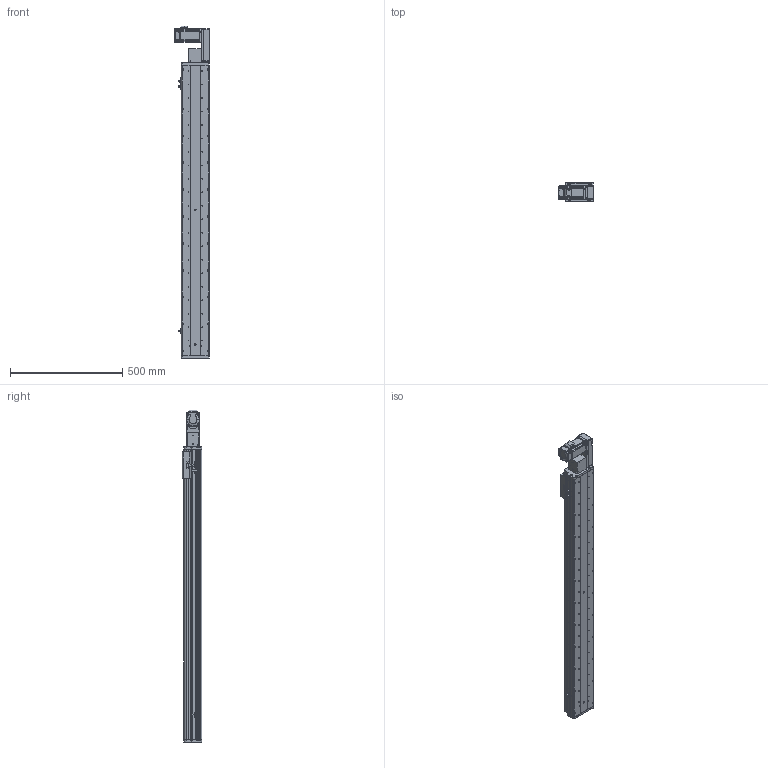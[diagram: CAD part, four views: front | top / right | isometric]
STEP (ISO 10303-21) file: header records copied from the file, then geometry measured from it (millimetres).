
FILE_DESCRIPTION (( 'STEP AP214' ), '1' );
FILE_NAME ('KSD125B-S1100-MLB-CM.STEP', '2017-10-21T01:56:07', ( '微软用户' ), ( '微软中国' ), 'SwSTEP 2.0', 'SolidWorks 2014', '' );
FILE_SCHEMA (( 'AUTOMOTIVE_DESIGN' ));
Length unit declared in the file: millimetre
Products named in the file (17): MHMD042G1CA_2_03; KSD125模组同步带-防撞垫2; 覜茼え68遵圉猾敕; U倰嫖萇假蚾璃; U倰嫖萇EEㄜSX672; KSD125模组同步带-防撞垫1; 前端板-125宽模组同步带; 125模组同步带-尾端板1; KSD125模组同步带-滑动座1; KSD125B-S1100-MLB-CM; 悵誘欶奻狟殏; HTPA30S3M150_A_H6_a佪裝蚚; HTPA30S3M150_A_H6_a萇儂蚚; 100宽马达安装板连板上下折丝杆同步带; 100宽马达安装板同步带左; KSD125模组1100行程同步带-防尘盖; 125模组1100行程同步带-底板
Assembly tree (20 placements, depth 2):
  KSD125B-S1100-MLB-CM
    KSD125模组同步带-滑动座1
    125模组同步带-尾端板1
    前端板-125宽模组同步带
    KSD125模组同步带-防撞垫1
    U倰嫖萇EEㄜSX672  x3
    U倰嫖萇假蚾璃  x3
    覜茼え68遵圉猾敕
    KSD125模组同步带-防撞垫2
    MHMD042G1CA_2_03
    125模组1100行程同步带-底板
    KSD125模组1100行程同步带-防尘盖
    100宽马达安装板同步带左
    100宽马达安装板连板上下折丝杆同步带
    HTPA30S3M150_A_H6_a萇儂蚚
    HTPA30S3M150_A_H6_a佪裝蚚
    悵誘欶奻狟殏
Bounding box: 155 x 86 x 1478 mm (x, y, z)
Volume: 4192639.2 mm3; surface area: 1404653 mm2
Topology: 19 solids, 22 shells, 2329 faces, 6751 edges, 4462 vertices
Faces by surface type: cylinder 1472, plane 730, cone 105, bspline 22
Entity records: 83093 total; most frequent: CARTESIAN_POINT 16377, DIRECTION 12912, ORIENTED_EDGE 12022, EDGE_CURVE 6089, AXIS2_PLACEMENT_3D 5001, VERTEX_POINT 4054, LINE 2910, VECTOR 2910
